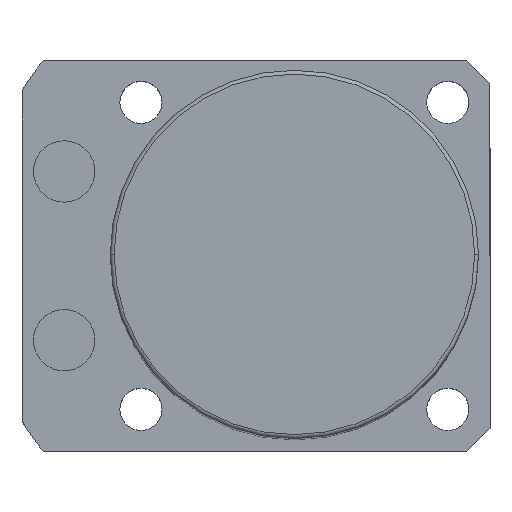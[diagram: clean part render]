
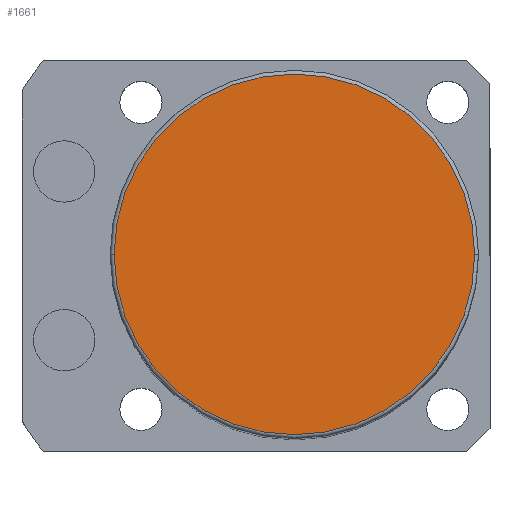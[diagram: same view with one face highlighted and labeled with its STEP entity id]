
A CAD part, top view. The second image highlights one B-rep face of the part: STEP entity #1661.
In plain terms, the highlighted planar face has unit normal (0, 0, 1).
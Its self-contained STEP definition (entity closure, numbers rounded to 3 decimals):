
#96 = DIRECTION ( 'NONE',  ( 0., 0., 1. ) ) ;
#181 = CIRCLE ( 'NONE', #338, 23.5 ) ;
#273 = AXIS2_PLACEMENT_3D ( 'NONE', #1445, #1272, #2100 ) ;
#338 = AXIS2_PLACEMENT_3D ( 'NONE', #1527, #1104, #2372 ) ;
#451 = VERTEX_POINT ( 'NONE', #940 ) ;
#732 = DIRECTION ( 'NONE',  ( 1., 0., 0. ) ) ;
#916 = CARTESIAN_POINT ( 'NONE',  ( -23.5, 0., 121. ) ) ;
#940 = CARTESIAN_POINT ( 'NONE',  ( 23.5, 0., 121. ) ) ;
#1016 = EDGE_LOOP ( 'NONE', ( #2012, #2241 ) ) ;
#1071 = FACE_OUTER_BOUND ( 'NONE', #1016, .T. ) ;
#1104 = DIRECTION ( 'NONE',  ( 0., 0., 1. ) ) ;
#1272 = DIRECTION ( 'NONE',  ( 0., 0., 1. ) ) ;
#1445 = CARTESIAN_POINT ( 'NONE',  ( 0., 0., 121. ) ) ;
#1527 = CARTESIAN_POINT ( 'NONE',  ( 0., 0., 121. ) ) ;
#1661 = ADVANCED_FACE ( 'NONE', ( #1071 ), #2539, .T. ) ;
#1854 = AXIS2_PLACEMENT_3D ( 'NONE', #1992, #96, #732 ) ;
#1896 = CIRCLE ( 'NONE', #1854, 23.5 ) ;
#1968 = VERTEX_POINT ( 'NONE', #916 ) ;
#1990 = EDGE_CURVE ( 'NONE', #1968, #451, #1896, .T. ) ;
#1992 = CARTESIAN_POINT ( 'NONE',  ( 0., 0., 121. ) ) ;
#2012 = ORIENTED_EDGE ( 'NONE', *, *, #2282, .T. ) ;
#2100 = DIRECTION ( 'NONE',  ( 1., 0., 0. ) ) ;
#2241 = ORIENTED_EDGE ( 'NONE', *, *, #1990, .T. ) ;
#2282 = EDGE_CURVE ( 'NONE', #451, #1968, #181, .T. ) ;
#2372 = DIRECTION ( 'NONE',  ( 1., 0., 0. ) ) ;
#2539 = PLANE ( 'NONE',  #273 ) ;
